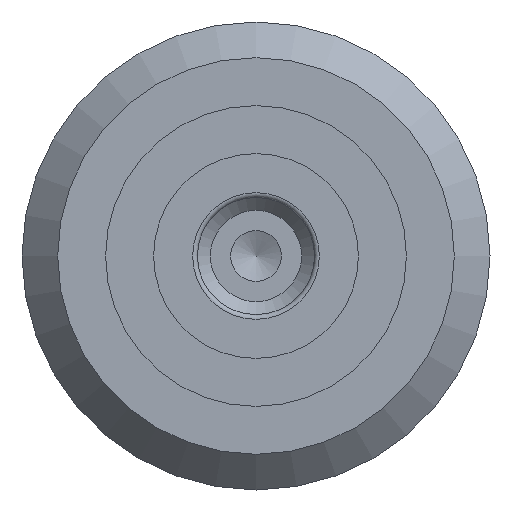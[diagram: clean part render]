
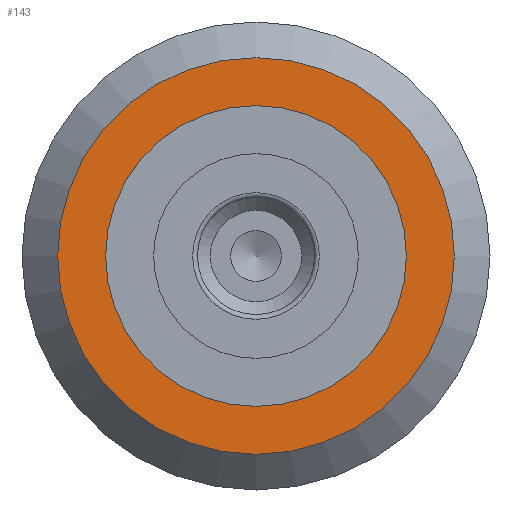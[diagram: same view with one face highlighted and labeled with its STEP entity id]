
A CAD part, left-side view. The second image highlights one B-rep face of the part: STEP entity #143.
In plain terms, the highlighted planar face has unit normal (-1, 0, 0).
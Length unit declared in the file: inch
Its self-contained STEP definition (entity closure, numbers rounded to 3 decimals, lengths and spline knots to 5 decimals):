
#143 = ADVANCED_FACE( '', ( #322, #323 ), #324, .T. );
#322 = FACE_BOUND( '', #585, .T. );
#323 = FACE_OUTER_BOUND( '', #586, .T. );
#324 = PLANE( '', #587 );
#585 = EDGE_LOOP( '', ( #853 ) );
#586 = EDGE_LOOP( '', ( #854 ) );
#587 = AXIS2_PLACEMENT_3D( '', #855, #856, #857 );
#853 = ORIENTED_EDGE( '', *, *, #1285, .T. );
#854 = ORIENTED_EDGE( '', *, *, #1286, .F. );
#855 = CARTESIAN_POINT( '', ( -0.375, 1., 0. ) );
#856 = DIRECTION( '', ( -1., 0., 0. ) );
#857 = DIRECTION( '', ( 0., 0., 1. ) );
#1285 = EDGE_CURVE( '', #1455, #1455, #1456, .T. );
#1286 = EDGE_CURVE( '', #1457, #1457, #1458, .T. );
#1455 = VERTEX_POINT( '', #1696 );
#1456 = CIRCLE( '', #1697, 0.75825 );
#1457 = VERTEX_POINT( '', #1698 );
#1458 = CIRCLE( '', #1699, 1. );
#1696 = CARTESIAN_POINT( '', ( -0.375, 0., -0.75825 ) );
#1697 = AXIS2_PLACEMENT_3D( '', #2061, #2062, #2063 );
#1698 = CARTESIAN_POINT( '', ( -0.375, 0., -1. ) );
#1699 = AXIS2_PLACEMENT_3D( '', #2064, #2065, #2066 );
#2061 = CARTESIAN_POINT( '', ( -0.375, 0., 0. ) );
#2062 = DIRECTION( '', ( 1., 0., 0. ) );
#2063 = DIRECTION( '', ( 0., 0., -1. ) );
#2064 = CARTESIAN_POINT( '', ( -0.375, 0., 0. ) );
#2065 = DIRECTION( '', ( 1., 0., 0. ) );
#2066 = DIRECTION( '', ( 0., 0., -1. ) );
